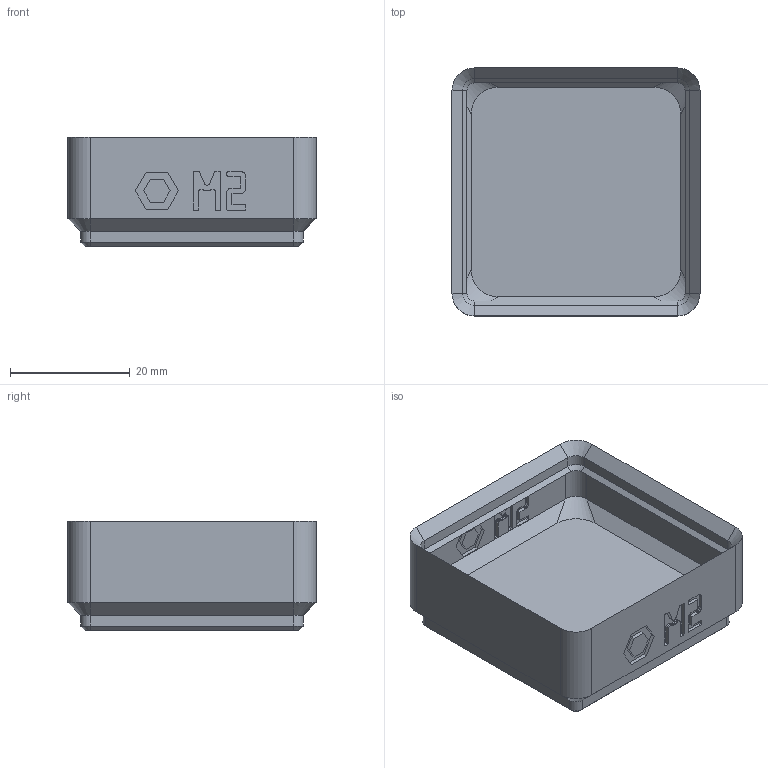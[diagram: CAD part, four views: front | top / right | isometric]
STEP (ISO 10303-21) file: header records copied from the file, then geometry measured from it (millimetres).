
FILE_DESCRIPTION(('Open CASCADE Model'),'2;1');
FILE_NAME('bin_nut_m2','2026-11-16T17:21:36',('Author'),('Open CASCADE') ,'Open CASCADE STEP processor 8.0','build123d','Unknown');
FILE_SCHEMA(('AUTOMOTIVE_DESIGN { 1 0 10303 214 1 1 1 1 }'));
Length unit declared in the file: millimetre
Products named in the file (1): bin_nut_m2
Bounding box: 41.5 x 41.5 x 18.4 mm (x, y, z)
Volume: 10974.9 mm3; surface area: 8324.9 mm2
Topology: 1 solids, 1 shells, 589 faces, 1654 edges, 1084 vertices
Faces by surface type: plane 541, cylinder 24, cone 16, bspline 8
Full cylindrical faces by diameter (mm): 3.2 x4, 6.5 x4
Entity records: 38996 total; most frequent: CARTESIAN_POINT 7884, DIRECTION 5038, LINE 3726, VECTOR 3726, ORIENTED_EDGE 3308, PCURVE 3308, DEFINITIONAL_REPRESENTATION 3308, EDGE_CURVE 1654
